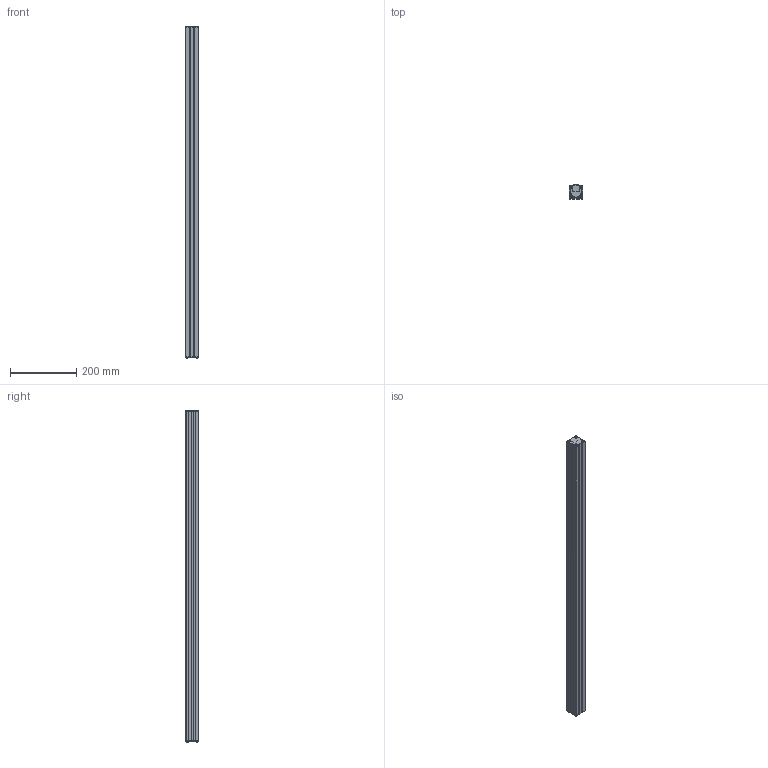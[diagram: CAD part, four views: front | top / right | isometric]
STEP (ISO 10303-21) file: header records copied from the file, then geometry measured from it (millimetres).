
FILE_DESCRIPTION (( 'STEP AP214' ), '1' );
FILE_NAME ('LLR40.STEP', '2022-06-27T12:44:25', ( '' ), ( '' ), 'SwSTEP 2.0', 'SolidWorks 2020', '' );
FILE_SCHEMA (( 'AUTOMOTIVE_DESIGN' ));
Length unit declared in the file: millimetre
Products named in the file (4): end plate^LLR40; carriage^LLR40_carriage version 0; profile^LLR40; LLR40
Assembly tree (4 placements, depth 2):
  LLR40
    profile^LLR40
    carriage^LLR40_carriage version 0
    end plate^LLR40  x2
Bounding box: 40 x 42 x 999.5 mm (x, y, z)
Volume: 1063310.5 mm3; surface area: 319618.6 mm2
Topology: 14 solids, 14 shells, 433 faces, 1133 edges, 730 vertices
Faces by surface type: plane 316, cylinder 73, cone 24, bspline 20
Entity records: 11355 total; most frequent: CARTESIAN_POINT 3619, ORIENTED_EDGE 1514, DIRECTION 1411, EDGE_CURVE 757, LINE 615, VECTOR 615, VERTEX_POINT 498, AXIS2_PLACEMENT_3D 398
